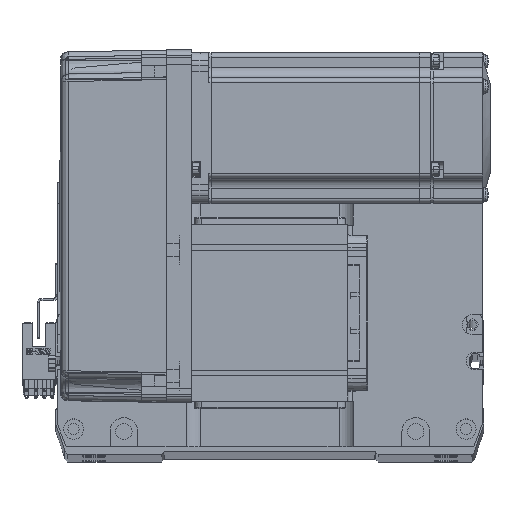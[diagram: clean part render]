
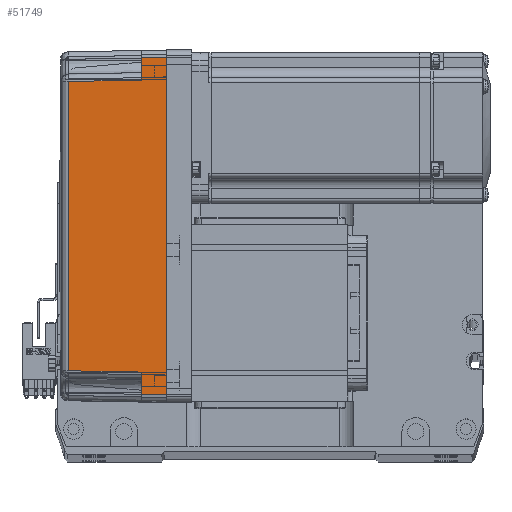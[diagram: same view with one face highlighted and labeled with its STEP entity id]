
A CAD part, top view. The second image highlights one B-rep face of the part: STEP entity #51749.
In plain terms, the highlighted planar face has unit normal (-0.018, 0, 1) as drawn and (0, 1, 0.017) by its records, which use the part's own axes.
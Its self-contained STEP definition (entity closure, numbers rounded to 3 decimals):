
#621 = LINE ( 'NONE', #28789, #44620 ) ;
#3398 = EDGE_CURVE ( 'NONE', #32636, #7495, #54882, .T. ) ;
#5060 = DIRECTION ( 'NONE',  ( 0.017, -0.017, 1. ) ) ;
#5193 = EDGE_CURVE ( 'NONE', #7495, #12465, #52310, .T. ) ;
#6069 = DIRECTION ( 'NONE',  ( -0.017, -0.017, 1. ) ) ;
#7495 = VERTEX_POINT ( 'NONE', #49387 ) ;
#7866 = EDGE_CURVE ( 'NONE', #25106, #23341, #47920, .T. ) ;
#9019 = EDGE_LOOP ( 'NONE', ( #13918, #11401, #56413, #26238, #34067, #61308, #51367, #14041 ) ) ;
#9089 = B_SPLINE_CURVE_WITH_KNOTS ( 'NONE', 3,
 ( #9626, #16066, #51098, #15865 ),
 .UNSPECIFIED., .F., .F.,
 ( 4, 4 ),
 ( 0., 1. ),
 .UNSPECIFIED. ) ;
#9168 = CARTESIAN_POINT ( 'NONE',  ( 0., 36., 0. ) ) ;
#9626 = CARTESIAN_POINT ( 'NONE',  ( -57.495, 35.32, 38.985 ) ) ;
#9881 = DIRECTION ( 'NONE',  ( 1., 0., 0. ) ) ;
#10110 = CARTESIAN_POINT ( 'NONE',  ( -57.495, 35.32, 38.985 ) ) ;
#11401 = ORIENTED_EDGE ( 'NONE', *, *, #22319, .T. ) ;
#11774 = VECTOR ( 'NONE', #50426, 1000. ) ;
#12465 = VERTEX_POINT ( 'NONE', #49034 ) ;
#13856 = CARTESIAN_POINT ( 'NONE',  ( -67., 36., 0. ) ) ;
#13918 = ORIENTED_EDGE ( 'NONE', *, *, #48370, .T. ) ;
#14041 = ORIENTED_EDGE ( 'NONE', *, *, #3398, .F. ) ;
#15463 = CARTESIAN_POINT ( 'NONE',  ( 67.001, 36.001, -0.052 ) ) ;
#15856 = DIRECTION ( 'NONE',  ( 1., 0., 0. ) ) ;
#15865 = CARTESIAN_POINT ( 'NONE',  ( 57.495, 35.32, 38.985 ) ) ;
#16066 = CARTESIAN_POINT ( 'NONE',  ( -19.165, 35.316, 39.181 ) ) ;
#17032 = VERTEX_POINT ( 'NONE', #43136 ) ;
#19405 = PLANE ( 'NONE',  #23843 ) ;
#22319 = EDGE_CURVE ( 'NONE', #17032, #26677, #39994, .T. ) ;
#23341 = VERTEX_POINT ( 'NONE', #50246 ) ;
#23843 = AXIS2_PLACEMENT_3D ( 'NONE', #39550, #65406, #64928 ) ;
#24356 = EDGE_CURVE ( 'NONE', #26677, #39375, #621, .T. ) ;
#24948 = CARTESIAN_POINT ( 'NONE',  ( -67., 36., 0. ) ) ;
#25106 = VERTEX_POINT ( 'NONE', #63137 ) ;
#26238 = ORIENTED_EDGE ( 'NONE', *, *, #54345, .T. ) ;
#26339 = VECTOR ( 'NONE', #15856, 1000. ) ;
#26677 = VERTEX_POINT ( 'NONE', #57395 ) ;
#28789 = CARTESIAN_POINT ( 'NONE',  ( -58., 35.825, 10. ) ) ;
#30483 = CARTESIAN_POINT ( 'NONE',  ( 57.495, 35.32, 38.985 ) ) ;
#32636 = VERTEX_POINT ( 'NONE', #13856 ) ;
#34016 = DIRECTION ( 'NONE',  ( 0.017, -0.017, 1. ) ) ;
#34067 = ORIENTED_EDGE ( 'NONE', *, *, #7866, .T. ) ;
#35459 = DIRECTION ( 'NONE',  ( 0.017, 0.017, -1. ) ) ;
#36365 = LINE ( 'NONE', #40522, #64299 ) ;
#37984 = VECTOR ( 'NONE', #6069, 1000. ) ;
#39375 = VERTEX_POINT ( 'NONE', #10110 ) ;
#39550 = CARTESIAN_POINT ( 'NONE',  ( 70., 36., 0. ) ) ;
#39994 = LINE ( 'NONE', #66287, #26339 ) ;
#40522 = CARTESIAN_POINT ( 'NONE',  ( 70., 35.825, 10. ) ) ;
#42414 = VECTOR ( 'NONE', #35459, 1000. ) ;
#43136 = CARTESIAN_POINT ( 'NONE',  ( -66.826, 35.825, 10. ) ) ;
#44620 = VECTOR ( 'NONE', #34016, 1000. ) ;
#47920 = LINE ( 'NONE', #30483, #42414 ) ;
#48149 = FACE_OUTER_BOUND ( 'NONE', #9019, .T. ) ;
#48370 = EDGE_CURVE ( 'NONE', #32636, #17032, #56371, .T. ) ;
#48424 = VECTOR ( 'NONE', #5060, 1000. ) ;
#49034 = CARTESIAN_POINT ( 'NONE',  ( 66.826, 35.825, 10. ) ) ;
#49387 = CARTESIAN_POINT ( 'NONE',  ( 67., 36., 0. ) ) ;
#49682 = EDGE_CURVE ( 'NONE', #23341, #12465, #36365, .T. ) ;
#50246 = CARTESIAN_POINT ( 'NONE',  ( 58., 35.825, 10. ) ) ;
#50426 = DIRECTION ( 'NONE',  ( 1., 0., 0. ) ) ;
#51098 = CARTESIAN_POINT ( 'NONE',  ( 19.165, 35.316, 39.181 ) ) ;
#51367 = ORIENTED_EDGE ( 'NONE', *, *, #5193, .F. ) ;
#51749 = ADVANCED_FACE ( 'NONE', ( #48149 ), #19405, .T. ) ;
#52310 = LINE ( 'NONE', #15463, #37984 ) ;
#54345 = EDGE_CURVE ( 'NONE', #39375, #25106, #9089, .T. ) ;
#54882 = LINE ( 'NONE', #9168, #11774 ) ;
#56371 = LINE ( 'NONE', #24948, #48424 ) ;
#56413 = ORIENTED_EDGE ( 'NONE', *, *, #24356, .T. ) ;
#57395 = CARTESIAN_POINT ( 'NONE',  ( -58., 35.825, 10. ) ) ;
#61308 = ORIENTED_EDGE ( 'NONE', *, *, #49682, .T. ) ;
#63137 = CARTESIAN_POINT ( 'NONE',  ( 57.495, 35.32, 38.985 ) ) ;
#64299 = VECTOR ( 'NONE', #9881, 1000. ) ;
#64928 = DIRECTION ( 'NONE',  ( 0., -0.017, 1. ) ) ;
#65406 = DIRECTION ( 'NONE',  ( 0., 1., 0.017 ) ) ;
#66287 = CARTESIAN_POINT ( 'NONE',  ( 70., 35.825, 10. ) ) ;
